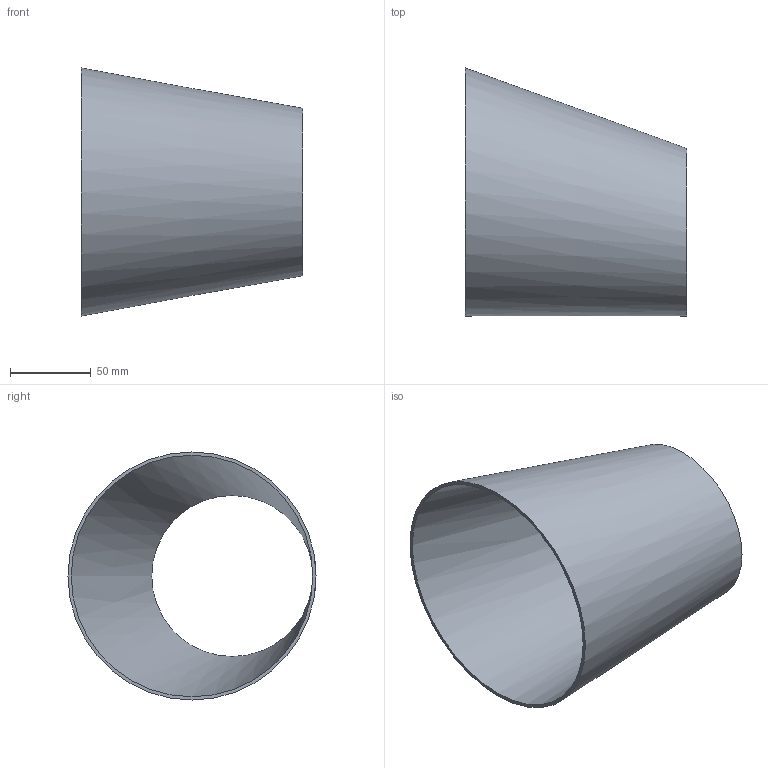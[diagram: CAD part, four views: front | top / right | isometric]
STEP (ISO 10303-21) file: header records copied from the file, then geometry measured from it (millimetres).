
FILE_DESCRIPTION(('FreeCAD Model'),'2;1');
FILE_NAME( '/home/martin/Documents/proyect/accesorios/stp/red-exc_DN150-100.step' ,'2017-12-31T13:05:26',('Author'),(''), 'Open CASCADE STEP processor 6.8','FreeCAD','Unknown');
FILE_SCHEMA(('AUTOMOTIVE_DESIGN_CC2 { 1 2 10303 214 -1 1 5 4 }'));
Length unit declared in the file: millimetre
Products named in the file (1): red-exc_DN150-100
Bounding box: 137.5 x 154 x 154 mm (x, y, z)
Volume: 109720.1 mm3; surface area: 113974.2 mm2
Topology: 1 solids, 1 shells, 4 faces, 6 edges, 4 vertices
Faces by surface type: bspline 2, plane 2
Entity records: 275 total; most frequent: CARTESIAN_POINT 115, DIRECTION 26, ORIENTED_EDGE 12, PCURVE 12, DEFINITIONAL_REPRESENTATION 12, CIRCLE 8, LINE 8, VECTOR 8
